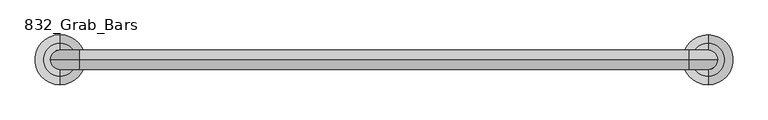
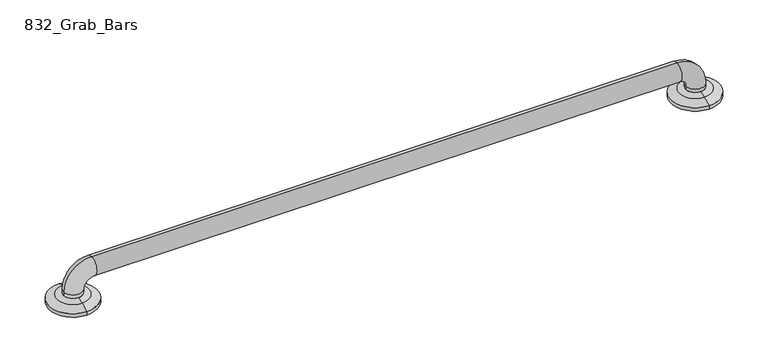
"""IFC4 building model written with IfcOpenShell, lengths in millimetres: proxy geometry, 832_Grab_Bars : 8320-001420."""

from ifc_helpers import new_model, si_unit, point, frame, origin, place, context, project, spatial, polyline, circle_curve, ellipse_curve, trimmed, source, transform, mapped, element, save
from ifc_brep_helpers import plane_surface, cylinder_surface, revolved_surface, advanced_brep


def proxy_832_grab_bars_99aa9c40(model_context):
    return source(origin(), model_context, "Body", "AdvancedBrep", [
        advanced_brep(
        [(-439.7375, -564.1630987, 13.1934507), (-439.7375, -508.9869013, 13.1934507), (-439.7375, -495.3, 6.35), (-439.7375, -577.85, 6.35), (-439.7375, -552.8038734, 15.875), (-439.7375, -520.3461266, 15.875), (-439.7375, -552.45, 15.875), (-455.6125, -536.575, 15.875), (-439.7375, -520.7, 15.875), (-423.8625, -536.575, 15.875), (-439.7375, -577.85, 0.0), (-439.7375, -495.3, 0.0), (-439.7375, -520.7, 0.0), (-439.7375, -536.575, 0.0), (-439.7375, -552.45, 0.0), (627.0625, -564.2276895, 13.1934507), (627.0625, -509.0514921, 13.1934507), (627.0625, -495.3645908, 6.35), (627.0625, -577.9145908, 6.35), (627.0625, -552.8684641, 15.875), (627.0625, -520.4107174, 15.875), (627.0625, -552.45, 15.875), (611.1875, -536.575, 15.875), (627.0625, -520.7, 15.875), (642.9375, -536.575, 15.875), (627.0625, -577.9145908, 0.0), (627.0625, -495.3645908, 0.0), (627.0625, -520.7, 0.0), (627.0625, -536.6395908, 0.0), (627.0625, -552.45, 0.0), (-455.6125, -536.575, 22.225), (-423.8625, -536.575, 22.225), (-407.9875, -536.575, 69.85), (-407.9875, -536.575, 38.1), (595.3125, -536.575, 69.85), (595.3125, -536.575, 38.1), (642.9375, -536.575, 22.225), (611.1875, -536.575, 22.225)],
        [
            (0, 1, circle_curve(frame((-439.7375, -536.575, 13.1934507), z_axis=(0.0, 0.0, -1.0), x_axis=(0.0, 1.0, 0.0)), 27.5880987)),
            (1, 2),
            (2, 3, circle_curve(frame((-439.7375, -536.575, 6.35), z_axis=(0.0, 0.0, 1.0), x_axis=(0.0, 1.0, 0.0)), 41.275)),
            (3, 0),
            (1, 0, circle_curve(frame((-439.7375, -536.575, 13.1934507), z_axis=(0.0, 0.0, -1.0), x_axis=(0.0, 1.0, 0.0)), 27.5880987)),
            (3, 2, circle_curve(frame((-439.7375, -536.575, 6.35), z_axis=(0.0, 0.0, 1.0), x_axis=(0.0, 1.0, 0.0)), 41.275)),
            (0, 4, circle_curve(frame((-439.7375, -552.8038734, -9.525), z_axis=(-1.0, 0.0, 0.0), x_axis=(0.0, 0.0, -1.0)), 25.4)),
            (4, 5, circle_curve(frame((-439.7375, -536.575, 15.875), z_axis=(0.0, 0.0, -1.0), x_axis=(0.0, 1.0, 0.0)), 16.2288734)),
            (5, 1, circle_curve(frame((-439.7375, -520.3461266, -9.525), z_axis=(-1.0, 0.0, 0.0), x_axis=(0.0, 0.0, -1.0)), 25.4)),
            (5, 4, circle_curve(frame((-439.7375, -536.575, 15.875), z_axis=(0.0, 0.0, -1.0), x_axis=(0.0, 1.0, 0.0)), 16.2288734)),
            (4, 6),
            (6, 7, circle_curve(frame((-439.7375, -536.575, 15.875), z_axis=(0.0, 0.0, -1.0), x_axis=(1.0, 0.0, 0.0)), 15.875)),
            (7, 8, circle_curve(frame((-439.7375, -536.575, 15.875), z_axis=(0.0, 0.0, -1.0), x_axis=(1.0, 0.0, 0.0)), 15.875)),
            (8, 5),
            (8, 9, circle_curve(frame((-439.7375, -536.575, 15.875), z_axis=(0.0, 0.0, -1.0), x_axis=(1.0, 0.0, 0.0)), 15.875)),
            (9, 6, circle_curve(frame((-439.7375, -536.575, 15.875), z_axis=(0.0, 0.0, -1.0), x_axis=(1.0, 0.0, 0.0)), 15.875)),
            (10, 11, circle_curve(frame((-439.7375, -536.575, 0.0), z_axis=(0.0, 0.0, -1.0), x_axis=(0.0, 1.0, 0.0)), 41.275)),
            (11, 12),
            (12, 13),
            (13, 14),
            (14, 10),
            (11, 10, circle_curve(frame((-439.7375, -536.575, 0.0), z_axis=(0.0, 0.0, -1.0), x_axis=(0.0, 1.0, 0.0)), 41.275)),
            (2, 11),
            (10, 3),
            (15, 16, circle_curve(frame((627.0625, -536.6395908, 13.1934507), z_axis=(0.0, 0.0, -1.0), x_axis=(0.0, 1.0, 0.0)), 27.5880987)),
            (16, 17),
            (17, 18, circle_curve(frame((627.0625, -536.6395908, 6.35), z_axis=(0.0, 0.0, 1.0), x_axis=(0.0, 1.0, 0.0)), 41.275)),
            (18, 15),
            (16, 15, circle_curve(frame((627.0625, -536.6395908, 13.1934507), z_axis=(0.0, 0.0, -1.0), x_axis=(0.0, 1.0, 0.0)), 27.5880987)),
            (18, 17, circle_curve(frame((627.0625, -536.6395908, 6.35), z_axis=(0.0, 0.0, 1.0), x_axis=(0.0, 1.0, 0.0)), 41.275)),
            (15, 19, circle_curve(frame((627.0625, -552.8684641, -9.525), z_axis=(-1.0, 0.0, 0.0), x_axis=(0.0, 0.0, -1.0)), 25.4)),
            (19, 20, circle_curve(frame((627.0625, -536.6395908, 15.875), z_axis=(0.0, 0.0, -1.0), x_axis=(0.0, 1.0, 0.0)), 16.2288734)),
            (20, 16, circle_curve(frame((627.0625, -520.4107174, -9.525), z_axis=(-1.0, 0.0, 0.0), x_axis=(0.0, 0.0, -1.0)), 25.4)),
            (20, 19, circle_curve(frame((627.0625, -536.6395908, 15.875), z_axis=(0.0, 0.0, -1.0), x_axis=(0.0, 1.0, 0.0)), 16.2288734)),
            (19, 21),
            (21, 22, circle_curve(frame((627.0625, -536.575, 15.875), z_axis=(0.0, 0.0, -1.0), x_axis=(-1.0, 0.0, 0.0)), 15.875)),
            (22, 23, circle_curve(frame((627.0625, -536.575, 15.875), z_axis=(0.0, 0.0, -1.0), x_axis=(-1.0, 0.0, 0.0)), 15.875)),
            (23, 20),
            (23, 24, circle_curve(frame((627.0625, -536.575, 15.875), z_axis=(0.0, 0.0, -1.0), x_axis=(-1.0, 0.0, 0.0)), 15.875)),
            (24, 21, circle_curve(frame((627.0625, -536.575, 15.875), z_axis=(0.0, 0.0, -1.0), x_axis=(-1.0, 0.0, 0.0)), 15.875)),
            (25, 26, circle_curve(frame((627.0625, -536.6395908, 0.0), z_axis=(0.0, 0.0, -1.0), x_axis=(0.0, 1.0, 0.0)), 41.275)),
            (26, 27),
            (27, 28),
            (28, 29),
            (29, 25),
            (26, 25, circle_curve(frame((627.0625, -536.6395908, 0.0), z_axis=(0.0, 0.0, -1.0), x_axis=(0.0, 1.0, 0.0)), 41.275)),
            (17, 26),
            (25, 18),
            (30, 31, circle_curve(frame((-439.7375, -536.575, 22.225), z_axis=(0.0, 0.0, -1.0), x_axis=(1.0, 0.0, 0.0)), 15.875)),
            (31, 9),
            (7, 30),
            (31, 30, circle_curve(frame((-439.7375, -536.575, 22.225), z_axis=(0.0, 0.0, -1.0), x_axis=(1.0, 0.0, 0.0)), 15.875)),
            (30, 32, circle_curve(frame((-407.9875, -536.575, 22.225), z_axis=(0.0, 1.0, 0.0), x_axis=(-1.0, 0.0, 0.0)), 47.625)),
            (32, 33, circle_curve(frame((-407.9875, -536.575, 53.975), z_axis=(-1.0, 0.0, 0.0), x_axis=(0.0, 0.0, -1.0)), 15.875)),
            (33, 31, circle_curve(frame((-407.9875, -536.575, 22.225), z_axis=(0.0, -1.0, 0.0), x_axis=(-1.0, 0.0, 0.0)), 15.875)),
            (33, 32, circle_curve(frame((-407.9875, -536.575, 53.975), z_axis=(-1.0, 0.0, 0.0), x_axis=(0.0, 0.0, -1.0)), 15.875)),
            (32, 34),
            (34, 35, circle_curve(frame((595.3125, -536.575, 53.975), z_axis=(-1.0, 0.0, 0.0), x_axis=(0.0, 0.0, -1.0)), 15.875)),
            (35, 33),
            (35, 34, circle_curve(frame((595.3125, -536.575, 53.975), z_axis=(-1.0, 0.0, 0.0), x_axis=(0.0, 0.0, -1.0)), 15.875)),
            (34, 36, circle_curve(frame((595.3125, -536.575, 22.225), z_axis=(0.0, 1.0, 0.0), x_axis=(0.0, 0.0, 1.0)), 47.625)),
            (36, 37, circle_curve(frame((627.0625, -536.575, 22.225), z_axis=(0.0, 0.0, 1.0), x_axis=(-1.0, 0.0, 0.0)), 15.875)),
            (37, 35, circle_curve(frame((595.3125, -536.575, 22.225), z_axis=(0.0, -1.0, 0.0), x_axis=(0.0, 0.0, 1.0)), 15.875)),
            (37, 36, circle_curve(frame((627.0625, -536.575, 22.225), z_axis=(0.0, 0.0, 1.0), x_axis=(-1.0, 0.0, 0.0)), 15.875)),
            (36, 24),
            (22, 37),
        ],
        [
            revolved_surface(polyline([(-439.7375, -495.3, 6.35), (-439.7375, -508.9869013, 13.1934507)]), (-439.7375, -536.575, 31.75), (0.0, 0.0, 1.0)),
            revolved_surface(trimmed(ellipse_curve(frame((-439.7375, -520.3461266, -9.525), z_axis=(1.0, 0.0, 0.0), x_axis=(0.0, 0.0, -1.0)), 25.4, 25.4), [point((-439.7375, -508.9869013, 13.1934507))], [point((-439.7375, -520.3461266, 15.875))], True, "CARTESIAN"), (-439.7375, -536.575, 31.75), (0.0, 0.0, 1.0)),
            plane_surface(frame((-439.7375, -536.575, 15.875), z_axis=(0.0, 0.0, 1.0), x_axis=(0.0, 1.0, 0.0))),
            plane_surface(frame((-439.7375, -536.575, 0.0), z_axis=(0.0, 0.0, -1.0), x_axis=(0.0, 1.0, 0.0))),
            cylinder_surface(frame((-439.7375, -536.575, 31.75), z_axis=(0.0, 0.0, 1.0), x_axis=(0.0, 1.0, 0.0)), 41.275),
            revolved_surface(polyline([(627.0625, -495.3645908, 6.35), (627.0625, -509.0514921, 13.1934507)]), (627.0625, -536.6395908, 31.75), (0.0, 0.0, 1.0)),
            revolved_surface(trimmed(ellipse_curve(frame((627.0625, -520.4107174, -9.525), z_axis=(1.0, 0.0, 0.0), x_axis=(0.0, 0.0, -1.0)), 25.4, 25.4), [point((627.0625, -509.0514921, 13.1934507))], [point((627.0625, -520.4107174, 15.875))], True, "CARTESIAN"), (627.0625, -536.6395908, 31.75), (0.0, 0.0, 1.0)),
            plane_surface(frame((627.0625, -536.6395908, 15.875), z_axis=(0.0, 0.0, 1.0), x_axis=(0.0, 1.0, 0.0))),
            plane_surface(frame((627.0625, -536.6395908, 0.0), z_axis=(0.0, 0.0, -1.0), x_axis=(0.0, 1.0, 0.0))),
            cylinder_surface(frame((627.0625, -536.6395908, 31.75), z_axis=(0.0, 0.0, 1.0), x_axis=(0.0, 1.0, 0.0)), 41.275),
            cylinder_surface(frame((-439.7375, -536.575, 0.0), z_axis=(0.0, 0.0, -1.0), x_axis=(1.0, 0.0, 0.0)), 15.875),
            revolved_surface(trimmed(ellipse_curve(frame((-439.7375, -536.575, 22.225), z_axis=(0.0, 0.0, -1.0), x_axis=(1.0, 0.0, 0.0)), 15.875, 15.875), [point((-455.6125, -536.575, 22.225))], [point((-423.8625, -536.575, 22.225))], True, "CARTESIAN"), (-407.9875, -536.575, 22.225), (0.0, 1.0, 0.0)),
            revolved_surface(trimmed(ellipse_curve(frame((-439.7375, -536.575, 22.225), z_axis=(0.0, 0.0, -1.0), x_axis=(1.0, 0.0, 0.0)), 15.875, 15.875), [point((-423.8625, -536.575, 22.225))], [point((-455.6125, -536.575, 22.225))], True, "CARTESIAN"), (-407.9875, -536.575, 22.225), (0.0, 1.0, 0.0)),
            cylinder_surface(frame((-407.9875, -536.575, 53.975), z_axis=(-1.0, 0.0, 0.0), x_axis=(0.0, 0.0, -1.0)), 15.875),
            revolved_surface(trimmed(ellipse_curve(frame((595.3125, -536.575, 53.975), z_axis=(-1.0, 0.0, 0.0), x_axis=(0.0, 0.0, -1.0)), 15.875, 15.875), [point((595.3125, -536.575, 69.85))], [point((595.3125, -536.575, 38.1))], True, "CARTESIAN"), (595.3125, -536.575, 22.225), (0.0, 1.0, 0.0)),
            revolved_surface(trimmed(ellipse_curve(frame((595.3125, -536.575, 53.975), z_axis=(-1.0, 0.0, 0.0), x_axis=(0.0, 0.0, -1.0)), 15.875, 15.875), [point((595.3125, -536.575, 38.1))], [point((595.3125, -536.575, 69.85))], True, "CARTESIAN"), (595.3125, -536.575, 22.225), (0.0, 1.0, 0.0)),
            cylinder_surface(frame((627.0625, -536.575, 22.225), z_axis=(0.0, 0.0, 1.0), x_axis=(-1.0, 0.0, 0.0)), 15.875),
        ],
        [
            (0, [[1, 2, 3, 4]]),
            (0, [[-2, 5, -4, 6]]),
            (1, [[-1, 7, 8, 9]]),
            (1, [[-5, -9, 10, -7]]),
            (2, [[-8, 11, 12, 13, 14]]),
            (2, [[-10, -14, 15, 16, -11]]),
            (3, [[17, 18, 19, 20, 21]]),
            (3, [[22, -21, -20, -19, -18]]),
            (4, [[-3, 23, -17, 24]]),
            (4, [[-6, -24, -22, -23]]),
            (5, [[25, 26, 27, 28]]),
            (5, [[-26, 29, -28, 30]]),
            (6, [[-25, 31, 32, 33]]),
            (6, [[-29, -33, 34, -31]]),
            (7, [[-32, 35, 36, 37, 38]]),
            (7, [[-34, -38, 39, 40, -35]]),
            (8, [[41, 42, 43, 44, 45]]),
            (8, [[46, -45, -44, -43, -42]]),
            (9, [[-27, 47, -41, 48]]),
            (9, [[-30, -48, -46, -47]]),
            (10, [[49, 50, -15, -13, 51]]),
            (10, [[52, -51, -12, -16, -50]]),
            (11, [[-49, 53, 54, 55]]),
            (12, [[-52, -55, 56, -53]]),
            (13, [[-54, 57, 58, 59]]),
            (13, [[-56, -59, 60, -57]]),
            (14, [[-58, 61, 62, 63]]),
            (15, [[-60, -63, 64, -61]]),
            (16, [[-62, 65, -39, -37, 66]]),
            (16, [[-64, -66, -36, -40, -65]]),
        ],
    ),
    ])


if __name__ == "__main__":
    model = new_model("IFC4")
    model_context = context("Model", 3, world=origin())
    ifc_project = project(units=[si_unit("LENGTHUNIT", "METRE", prefix="MILLI")], contexts=[model_context])
    site = spatial("IfcSite", under=ifc_project)
    building = spatial("IfcBuilding", under=site)
    placement = place(None, origin())
    proxy_832_grab_bars_shape = proxy_832_grab_bars_99aa9c40(model_context)
    element("IfcBuildingElementProxy", 1, Name="832_Grab_Bars : 8320-001420", ObjectType="832_Grab_Bars : 8320-001420", at=placement, inside=building, context=model_context, shape_type="MappedRepresentation", body=[
        mapped(proxy_832_grab_bars_shape, transform((0.0, 0.0, 0.0), x_axis=(1.0, 0.0, 0.0), y_axis=(0.0, 1.0, 0.0), z_axis=(0.0, 0.0, 1.0))),
    ])
    save(model, "model.ifc")
